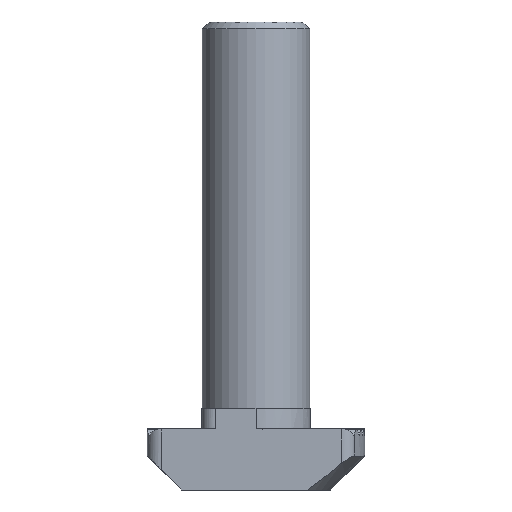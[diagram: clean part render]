
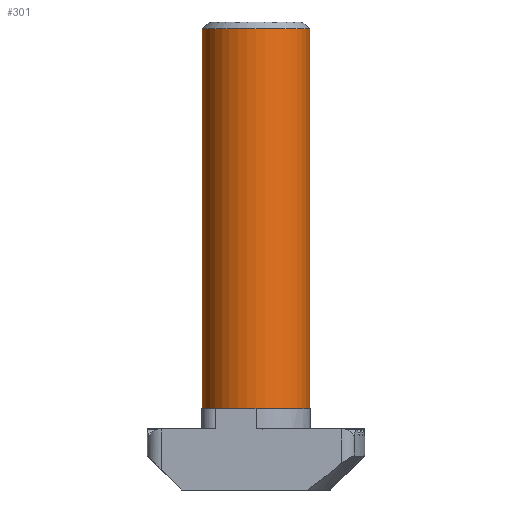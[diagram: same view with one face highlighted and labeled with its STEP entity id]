
A CAD part, front view. The second image highlights one B-rep face of the part: STEP entity #301.
In plain terms, the highlighted cylindrical face has radius 3.95 mm (diameter 7.9 mm), a partial arc.
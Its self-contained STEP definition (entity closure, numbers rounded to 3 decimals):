
#301=ADVANCED_FACE('NONE',(#603),#604,.T.);
#603=FACE_OUTER_BOUND('',#901,.T.);
#604=CYLINDRICAL_SURFACE('',#902,3.95);
#901=EDGE_LOOP('',(#1785,#1786,#1787,#1788));
#902=AXIS2_PLACEMENT_3D('',#1789,#1790,#1791);
#1785=ORIENTED_EDGE('',*,*,#1905,.F.);
#1786=ORIENTED_EDGE('',*,*,#2178,.T.);
#1787=ORIENTED_EDGE('',*,*,#1907,.T.);
#1788=ORIENTED_EDGE('',*,*,#1921,.T.);
#1789=CARTESIAN_POINT('',(0.0,0.0,-0.769));
#1790=DIRECTION('',(0.0,0.0,1.0));
#1791=DIRECTION('',(-1.0,0.0,0.0));
#1905=EDGE_CURVE('NONE',#2322,#2324,#2325,.T.);
#1907=EDGE_CURVE('NONE',#2321,#2326,#2328,.T.);
#1921=EDGE_CURVE('NONE',#2326,#2324,#2352,.T.);
#2178=EDGE_CURVE('NONE',#2322,#2321,#2707,.T.);
#2321=VERTEX_POINT('NONE',#3093);
#2322=VERTEX_POINT('NONE',#3094);
#2324=VERTEX_POINT('NONE',#3096);
#2325=LINE('',#3097,#3098);
#2326=VERTEX_POINT('NONE',#3099);
#2328=LINE('',#3101,#3102);
#2352=CIRCLE('',#3132,3.95);
#2707=CIRCLE('',#4296,3.95);
#3093=CARTESIAN_POINT('',(-3.95,0.0,34.0));
#3094=CARTESIAN_POINT('',(3.95,0.,34.0));
#3096=CARTESIAN_POINT('',(3.95,0.,6.0));
#3097=CARTESIAN_POINT('',(3.95,0.,-0.769));
#3098=VECTOR('',#4391,1000.0);
#3099=CARTESIAN_POINT('',(-3.95,0.0,6.0));
#3101=CARTESIAN_POINT('',(-3.95,0.0,-0.769));
#3102=VECTOR('',#4395,1000.0);
#3132=AXIS2_PLACEMENT_3D('',#4417,#4418,#4419);
#4296=AXIS2_PLACEMENT_3D('',#4565,#4566,#4567);
#4391=DIRECTION('',(-0.0,-0.0,-1.0));
#4395=DIRECTION('',(-0.0,-0.0,-1.0));
#4417=CARTESIAN_POINT('',(0.0,0.0,6.0));
#4418=DIRECTION('',(0.0,0.0,1.0));
#4419=DIRECTION('',(-1.0,0.0,0.0));
#4565=CARTESIAN_POINT('',(0.0,0.0,34.0));
#4566=DIRECTION('',(0.0,0.0,-1.0));
#4567=DIRECTION('',(-1.0,0.0,0.0));
